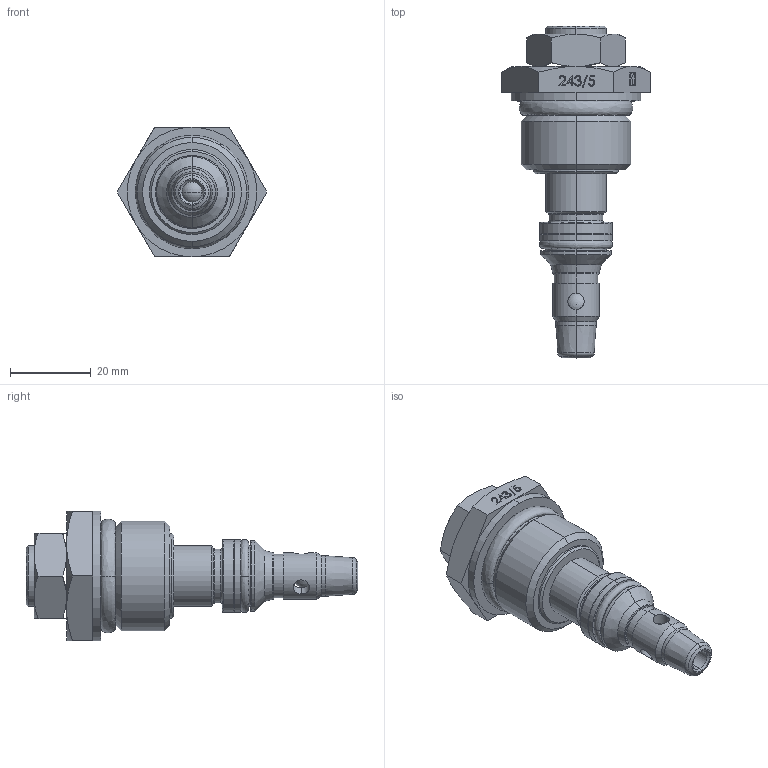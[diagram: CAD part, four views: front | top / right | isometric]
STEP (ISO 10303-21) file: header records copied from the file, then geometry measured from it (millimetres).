
FILE_DESCRIPTION (( 'STEP AP214' ), '1' );
FILE_NAME ('2243-5-34.STEP', '2014-03-13T21:31:52', ( '' ), ( '' ), 'SwSTEP 2.0', 'SolidWorks 2012', '' );
FILE_SCHEMA (( 'AUTOMOTIVE_DESIGN' ));
Length unit declared in the file: millimetre
Products named in the file (1): 2243-5-34
Bounding box: 36.95 x 82 x 32 mm (x, y, z)
Surface area: 8837.5 mm2 (no closed solid volume)
Topology: 0 solids, 10 shells, 225 faces, 644 edges, 419 vertices
Faces by surface type: plane 92, cylinder 45, bspline 40, cone 34, torus 12, sphere 2
Entity records: 13272 total; most frequent: CARTESIAN_POINT 5273, ORIENTED_EDGE 1118, DIRECTION 1031, EDGE_CURVE 639, VERTEX_POINT 416, LINE 351, VECTOR 351, AXIS2_PLACEMENT_3D 340
